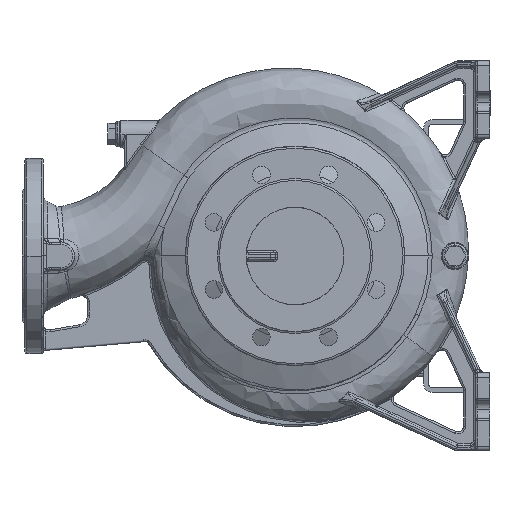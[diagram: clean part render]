
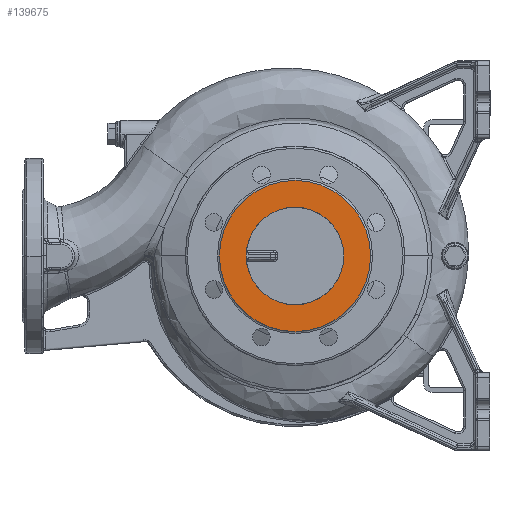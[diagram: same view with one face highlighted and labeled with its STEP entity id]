
A CAD part, front view. The second image highlights one B-rep face of the part: STEP entity #139675.
In plain terms, the highlighted planar face has unit normal (0, -1, 0).
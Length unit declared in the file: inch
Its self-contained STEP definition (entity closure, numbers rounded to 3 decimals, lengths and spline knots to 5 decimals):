
#3209 = DIRECTION ( 'NONE',  ( 0., 1., 0. ) ) ;
#5273 = CARTESIAN_POINT ( 'NONE',  ( -1.9685, -11.81102, 0. ) ) ;
#8996 = EDGE_CURVE ( 'NONE', #106482, #74201, #157273, .T. ) ;
#11135 = EDGE_CURVE ( 'NONE', #106482, #74201, #134673, .T. ) ;
#11576 = DIRECTION ( 'NONE',  ( -1., 0., 0. ) ) ;
#14097 = CIRCLE ( 'NONE', #31172, 3.05118 ) ;
#19896 = ORIENTED_EDGE ( 'NONE', *, *, #90924, .T. ) ;
#31172 = AXIS2_PLACEMENT_3D ( 'NONE', #124771, #72026, #84509 ) ;
#36047 = VERTEX_POINT ( 'NONE', #51269 ) ;
#37951 = CIRCLE ( 'NONE', #97908, 3.05118 ) ;
#38716 = DIRECTION ( 'NONE',  ( -1., 0., 0. ) ) ;
#42451 = CARTESIAN_POINT ( 'NONE',  ( 0., -11.81102, 0. ) ) ;
#51269 = CARTESIAN_POINT ( 'NONE',  ( -3.05118, -11.81102, 0. ) ) ;
#53202 = EDGE_LOOP ( 'NONE', ( #108315, #139572 ) ) ;
#71845 = AXIS2_PLACEMENT_3D ( 'NONE', #161197, #176404, #38716 ) ;
#72026 = DIRECTION ( 'NONE',  ( 0., 1., 0. ) ) ;
#74201 = VERTEX_POINT ( 'NONE', #130111 ) ;
#80033 = FACE_BOUND ( 'NONE', #53202, .T. ) ;
#84036 = VERTEX_POINT ( 'NONE', #118891 ) ;
#84509 = DIRECTION ( 'NONE',  ( -1., 0., 0. ) ) ;
#90924 = EDGE_CURVE ( 'NONE', #36047, #84036, #37951, .T. ) ;
#97908 = AXIS2_PLACEMENT_3D ( 'NONE', #133990, #105411, #11576 ) ;
#105411 = DIRECTION ( 'NONE',  ( 0., -1., 0. ) ) ;
#106020 = PLANE ( 'NONE',  #118200 ) ;
#106482 = VERTEX_POINT ( 'NONE', #5273 ) ;
#108315 = ORIENTED_EDGE ( 'NONE', *, *, #11135, .F. ) ;
#108649 = FACE_OUTER_BOUND ( 'NONE', #134822, .T. ) ;
#115869 = CARTESIAN_POINT ( 'NONE',  ( 0., -11.81102, 0. ) ) ;
#117273 = EDGE_CURVE ( 'NONE', #36047, #84036, #14097, .T. ) ;
#118200 = AXIS2_PLACEMENT_3D ( 'NONE', #42451, #3209, #153274 ) ;
#118891 = CARTESIAN_POINT ( 'NONE',  ( 3.05118, -11.81102, 0. ) ) ;
#124771 = CARTESIAN_POINT ( 'NONE',  ( 0., -11.81102, 0. ) ) ;
#125823 = AXIS2_PLACEMENT_3D ( 'NONE', #115869, #170456, #164092 ) ;
#130111 = CARTESIAN_POINT ( 'NONE',  ( 1.9685, -11.81102, 0. ) ) ;
#133990 = CARTESIAN_POINT ( 'NONE',  ( 0., -11.81102, 0. ) ) ;
#134673 = CIRCLE ( 'NONE', #71845, 1.9685 ) ;
#134822 = EDGE_LOOP ( 'NONE', ( #174931, #19896 ) ) ;
#139572 = ORIENTED_EDGE ( 'NONE', *, *, #8996, .T. ) ;
#139675 = ADVANCED_FACE ( 'NONE', ( #108649, #80033 ), #106020, .F. ) ;
#153274 = DIRECTION ( 'NONE',  ( 1., 0., 0. ) ) ;
#157273 = CIRCLE ( 'NONE', #125823, 1.9685 ) ;
#161197 = CARTESIAN_POINT ( 'NONE',  ( 0., -11.81102, 0. ) ) ;
#164092 = DIRECTION ( 'NONE',  ( -1., 0., 0. ) ) ;
#170456 = DIRECTION ( 'NONE',  ( 0., 1., 0. ) ) ;
#174931 = ORIENTED_EDGE ( 'NONE', *, *, #117273, .F. ) ;
#176404 = DIRECTION ( 'NONE',  ( 0., -1., 0. ) ) ;
